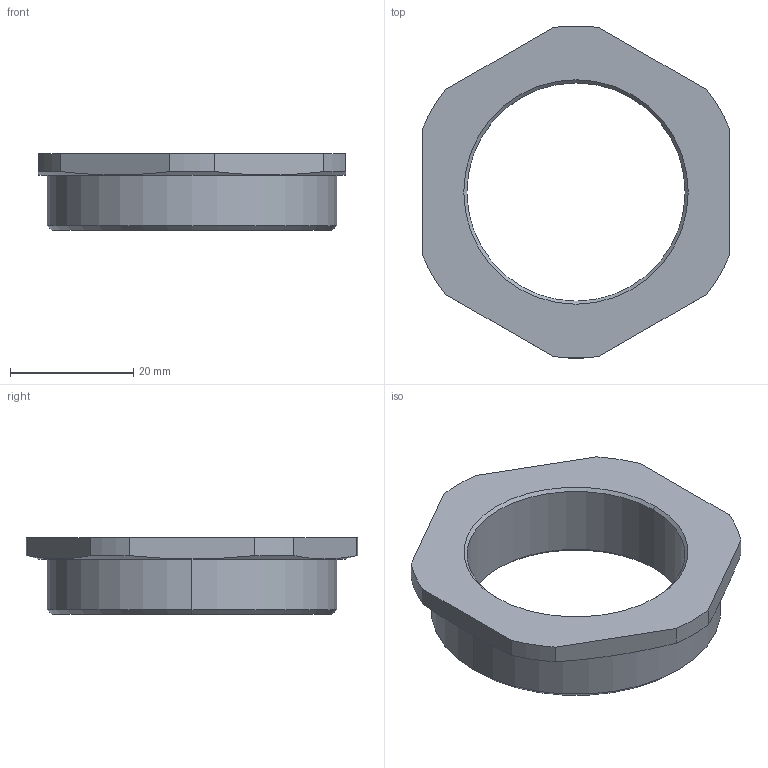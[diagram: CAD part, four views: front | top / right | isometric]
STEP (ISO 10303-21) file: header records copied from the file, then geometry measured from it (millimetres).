
FILE_DESCRIPTION (( 'STEP AP203' ), '1' );
FILE_NAME ('63629-OM.STEP', '2006-03-16T08:53:38', ( ' ' ), ( '' ), 'SwSTEP 2.0', 'SolidWorks 2005278', '' );
FILE_SCHEMA (( 'CONFIG_CONTROL_DESIGN' ));
Length unit declared in the file: millimetre
Products named in the file (1): 63629-OM
Bounding box: 50 x 53.94 x 12.5 mm (x, y, z)
Volume: 10580.8 mm3; surface area: 5404.1 mm2
Topology: 1 solids, 1 shells, 64 faces, 168 edges, 110 vertices
Faces by surface type: plane 46, cylinder 10, cone 8
Entity records: 2069 total; most frequent: CARTESIAN_POINT 395, ORIENTED_EDGE 336, DIRECTION 318, EDGE_CURVE 168, VECTOR 132, LINE 132, VERTEX_POINT 110, AXIS2_PLACEMENT_3D 93
